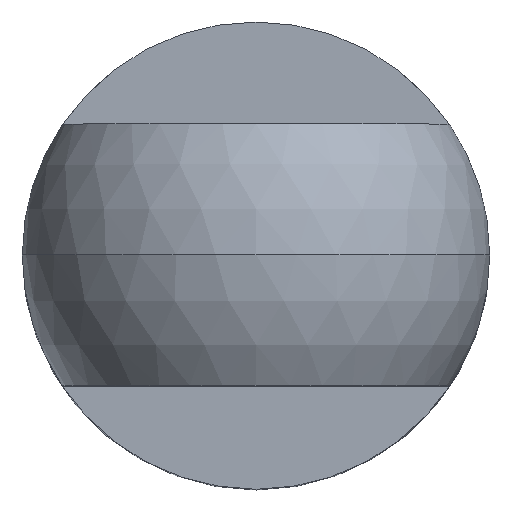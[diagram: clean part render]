
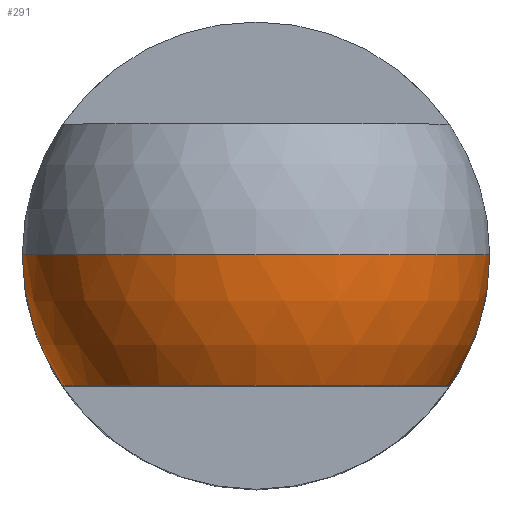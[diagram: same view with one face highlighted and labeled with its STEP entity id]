
A CAD part, top view. The second image highlights one B-rep face of the part: STEP entity #291.
In plain terms, the highlighted spherical face has radius 12.5 mm.
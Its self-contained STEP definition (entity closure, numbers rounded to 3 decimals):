
#20 = ORIENTED_EDGE ( 'NONE', *, *, #46, .F. ) ;
#21 = VERTEX_POINT ( 'NONE', #202 ) ;
#28 = SPHERICAL_SURFACE ( 'NONE', #234, 12.5 ) ;
#37 = CARTESIAN_POINT ( 'NONE',  ( -10.356, -7., 42. ) ) ;
#46 = EDGE_CURVE ( 'NONE', #284, #606, #218, .T. ) ;
#62 = EDGE_LOOP ( 'NONE', ( #497, #193, #20, #185, #212 ) ) ;
#77 = CARTESIAN_POINT ( 'NONE',  ( -12.5, 0., 42. ) ) ;
#82 = DIRECTION ( 'NONE',  ( 0., -1., 0. ) ) ;
#92 = VERTEX_POINT ( 'NONE', #384 ) ;
#107 = DIRECTION ( 'NONE',  ( 0., 0., -1. ) ) ;
#116 = CARTESIAN_POINT ( 'NONE',  ( 0., 0., 42. ) ) ;
#118 = DIRECTION ( 'NONE',  ( -1., 0., 0. ) ) ;
#121 = CARTESIAN_POINT ( 'NONE',  ( 10.356, -7., 42. ) ) ;
#129 = AXIS2_PLACEMENT_3D ( 'NONE', #230, #82, #232 ) ;
#141 = AXIS2_PLACEMENT_3D ( 'NONE', #116, #454, #118 ) ;
#154 = DIRECTION ( 'NONE',  ( 0., 0., -1. ) ) ;
#185 = ORIENTED_EDGE ( 'NONE', *, *, #581, .F. ) ;
#186 = EDGE_CURVE ( 'NONE', #21, #507, #601, .T. ) ;
#193 = ORIENTED_EDGE ( 'NONE', *, *, #409, .T. ) ;
#202 = CARTESIAN_POINT ( 'NONE',  ( 12.5, 0., 42. ) ) ;
#212 = ORIENTED_EDGE ( 'NONE', *, *, #186, .F. ) ;
#218 = CIRCLE ( 'NONE', #370, 12.5 ) ;
#230 = CARTESIAN_POINT ( 'NONE',  ( 0., -7., 42. ) ) ;
#232 = DIRECTION ( 'NONE',  ( 1., 0., 0. ) ) ;
#234 = AXIS2_PLACEMENT_3D ( 'NONE', #294, #248, #332 ) ;
#248 = DIRECTION ( 'NONE',  ( 0., 1., 0. ) ) ;
#261 = DIRECTION ( 'NONE',  ( 0., -1., 0. ) ) ;
#284 = VERTEX_POINT ( 'NONE', #37 ) ;
#291 = ADVANCED_FACE ( 'NONE', ( #323 ), #28, .T. ) ;
#294 = CARTESIAN_POINT ( 'NONE',  ( 0., 0., 42. ) ) ;
#298 = CIRCLE ( 'NONE', #129, 10.356 ) ;
#300 = AXIS2_PLACEMENT_3D ( 'NONE', #584, #261, #107 ) ;
#319 = AXIS2_PLACEMENT_3D ( 'NONE', #568, #565, #613 ) ;
#323 = FACE_OUTER_BOUND ( 'NONE', #62, .T. ) ;
#332 = DIRECTION ( 'NONE',  ( -1., 0., 0. ) ) ;
#333 = CIRCLE ( 'NONE', #300, 12.5 ) ;
#370 = AXIS2_PLACEMENT_3D ( 'NONE', #539, #154, #489 ) ;
#384 = CARTESIAN_POINT ( 'NONE',  ( 0., 0., 54.5 ) ) ;
#409 = EDGE_CURVE ( 'NONE', #92, #606, #333, .T. ) ;
#454 = DIRECTION ( 'NONE',  ( 0., 0., -1. ) ) ;
#489 = DIRECTION ( 'NONE',  ( -1., 0., 0. ) ) ;
#497 = ORIENTED_EDGE ( 'NONE', *, *, #560, .F. ) ;
#507 = VERTEX_POINT ( 'NONE', #121 ) ;
#539 = CARTESIAN_POINT ( 'NONE',  ( 0., 0., 42. ) ) ;
#556 = CIRCLE ( 'NONE', #319, 12.5 ) ;
#560 = EDGE_CURVE ( 'NONE', #92, #21, #556, .T. ) ;
#565 = DIRECTION ( 'NONE',  ( 0., 1., 0. ) ) ;
#568 = CARTESIAN_POINT ( 'NONE',  ( 0., 0., 42. ) ) ;
#581 = EDGE_CURVE ( 'NONE', #507, #284, #298, .T. ) ;
#584 = CARTESIAN_POINT ( 'NONE',  ( 0., 0., 42. ) ) ;
#601 = CIRCLE ( 'NONE', #141, 12.5 ) ;
#606 = VERTEX_POINT ( 'NONE', #77 ) ;
#613 = DIRECTION ( 'NONE',  ( -1., 0., 0. ) ) ;
